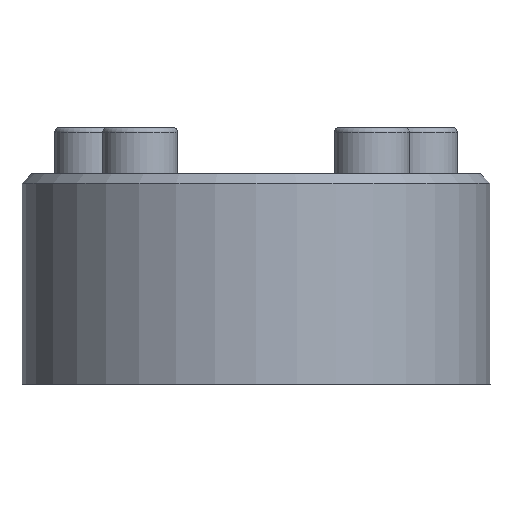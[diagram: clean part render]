
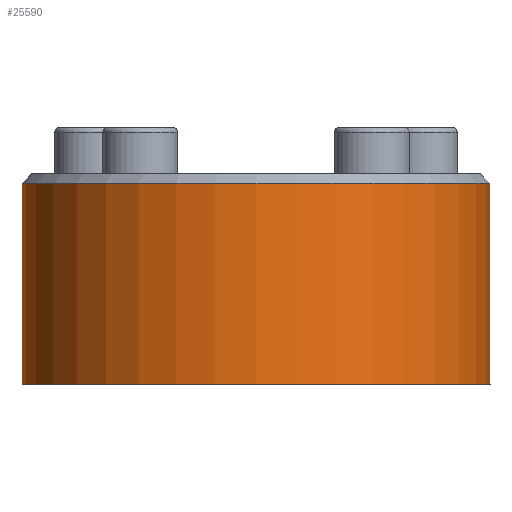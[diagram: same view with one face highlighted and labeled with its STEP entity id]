
A CAD part, front view. The second image highlights one B-rep face of the part: STEP entity #25590.
In plain terms, the highlighted cylindrical face has radius 50 mm (diameter 100 mm), a partial arc.
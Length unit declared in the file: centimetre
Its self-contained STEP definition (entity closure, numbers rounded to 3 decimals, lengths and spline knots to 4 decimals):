
#1538=CYLINDRICAL_SURFACE('',#26984,5.);
#2988=FACE_OUTER_BOUND('',#4457,.T.);
#4457=EDGE_LOOP('',(#18727,#18728,#18729,#18730));
#5747=LINE('',#32463,#8445);
#6551=LINE('',#36163,#9249);
#8445=VECTOR('',#27837,4.3);
#9249=VECTOR('',#28887,4.3);
#11176=CIRCLE('',#26981,5.);
#11177=CIRCLE('',#26985,5.);
#11191=VERTEX_POINT('',#32461);
#11192=VERTEX_POINT('',#32462);
#12380=VERTEX_POINT('',#36154);
#12381=VERTEX_POINT('',#36162);
#13639=EDGE_CURVE('',#11191,#11192,#5747,.T.);
#14882=EDGE_CURVE('',#11192,#12380,#11176,.T.);
#14885=EDGE_CURVE('',#12381,#12380,#6551,.T.);
#14886=EDGE_CURVE('',#12381,#11191,#11177,.T.);
#18727=ORIENTED_EDGE('',*,*,#14885,.T.);
#18728=ORIENTED_EDGE('',*,*,#14882,.F.);
#18729=ORIENTED_EDGE('',*,*,#13639,.F.);
#18730=ORIENTED_EDGE('',*,*,#14886,.F.);
#25590=ADVANCED_FACE('',(#2988),#1538,.T.);
#26981=AXIS2_PLACEMENT_3D('',#36156,#28877,#28878);
#26984=AXIS2_PLACEMENT_3D('',#36161,#28885,#28886);
#26985=AXIS2_PLACEMENT_3D('',#36164,#28888,#28889);
#27837=DIRECTION('',(0.,0.,1.));
#28877=DIRECTION('center_axis',(0.,0.,
1.));
#28878=DIRECTION('ref_axis',(-1.,0.,0.));
#28885=DIRECTION('center_axis',(0.,0.,
-1.));
#28886=DIRECTION('ref_axis',(-1.,0.,0.));
#28887=DIRECTION('',(0.,0.,1.));
#28888=DIRECTION('center_axis',(0.,0.,
-1.));
#28889=DIRECTION('ref_axis',(1.,0.,0.));
#32461=CARTESIAN_POINT('',(-5.,-7.5,-2.75));
#32462=CARTESIAN_POINT('',(-5.,-7.5,1.55));
#32463=CARTESIAN_POINT('',(-5.,-7.5,-2.75));
#36154=CARTESIAN_POINT('',(5.,-7.5,1.55));
#36156=CARTESIAN_POINT('Origin',(0.,-7.5,
1.55));
#36161=CARTESIAN_POINT('Origin',(0.,-7.5,
1.75));
#36162=CARTESIAN_POINT('',(5.,-7.5,-2.75));
#36163=CARTESIAN_POINT('',(5.,-7.5,-2.75));
#36164=CARTESIAN_POINT('Origin',(0.,-7.5,
-2.75));
